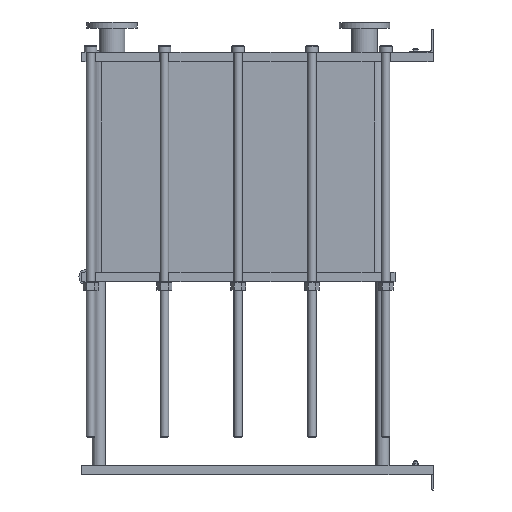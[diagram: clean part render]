
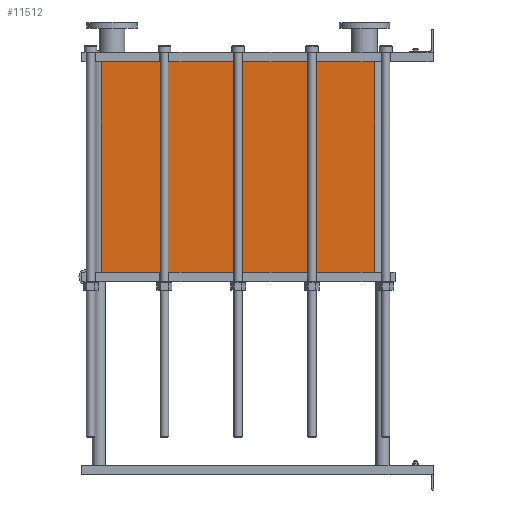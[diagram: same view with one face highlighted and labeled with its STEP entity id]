
A CAD part, left-side view. The second image highlights one B-rep face of the part: STEP entity #11512.
In plain terms, the highlighted planar face has unit normal (-1, 0, 0).
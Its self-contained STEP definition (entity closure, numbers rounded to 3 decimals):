
#1129=LINE('',#23232,#2102);
#1130=LINE('',#23236,#2103);
#1131=LINE('',#23238,#2104);
#1132=LINE('',#23239,#2105);
#2102=VECTOR('',#15887,10.);
#2103=VECTOR('',#15892,10.);
#2104=VECTOR('',#15893,10.);
#2105=VECTOR('',#15894,10.);
#3267=FACE_OUTER_BOUND('',#4093,.T.);
#4093=EDGE_LOOP('',(#10103,#10104,#10105,#10106));
#5642=VERTEX_POINT('',#23229);
#5643=VERTEX_POINT('',#23231);
#5644=VERTEX_POINT('',#23235);
#5645=VERTEX_POINT('',#23237);
#7159=EDGE_CURVE('',#5643,#5642,#1129,.T.);
#7161=EDGE_CURVE('',#5642,#5644,#1130,.T.);
#7162=EDGE_CURVE('',#5645,#5644,#1131,.T.);
#7163=EDGE_CURVE('',#5645,#5643,#1132,.T.);
#10103=ORIENTED_EDGE('',*,*,#7161,.T.);
#10104=ORIENTED_EDGE('',*,*,#7162,.F.);
#10105=ORIENTED_EDGE('',*,*,#7163,.T.);
#10106=ORIENTED_EDGE('',*,*,#7159,.T.);
#10857=PLANE('',#12751);
#11512=ADVANCED_FACE('',(#3267),#10857,.T.);
#12751=AXIS2_PLACEMENT_3D('',#23234,#15890,#15891);
#15887=DIRECTION('',(0.,0.,-1.));
#15890=DIRECTION('center_axis',(-1.,0.,0.));
#15891=DIRECTION('ref_axis',(0.,1.,0.));
#15892=DIRECTION('',(0.,-1.,0.));
#15893=DIRECTION('',(0.,0.,-1.));
#15894=DIRECTION('',(0.,1.,0.));
#23229=CARTESIAN_POINT('',(-200.,1414.,-897.));
#23231=CARTESIAN_POINT('',(-200.,1414.,0.));
#23232=CARTESIAN_POINT('',(-200.,1414.,0.));
#23234=CARTESIAN_POINT('Origin',(-200.,248.,0.));
#23235=CARTESIAN_POINT('',(-200.,248.,-897.));
#23236=CARTESIAN_POINT('',(-200.,539.5,-897.));
#23237=CARTESIAN_POINT('',(-200.,248.,0.));
#23238=CARTESIAN_POINT('',(-200.,248.,0.));
#23239=CARTESIAN_POINT('',(-200.,248.,0.));
